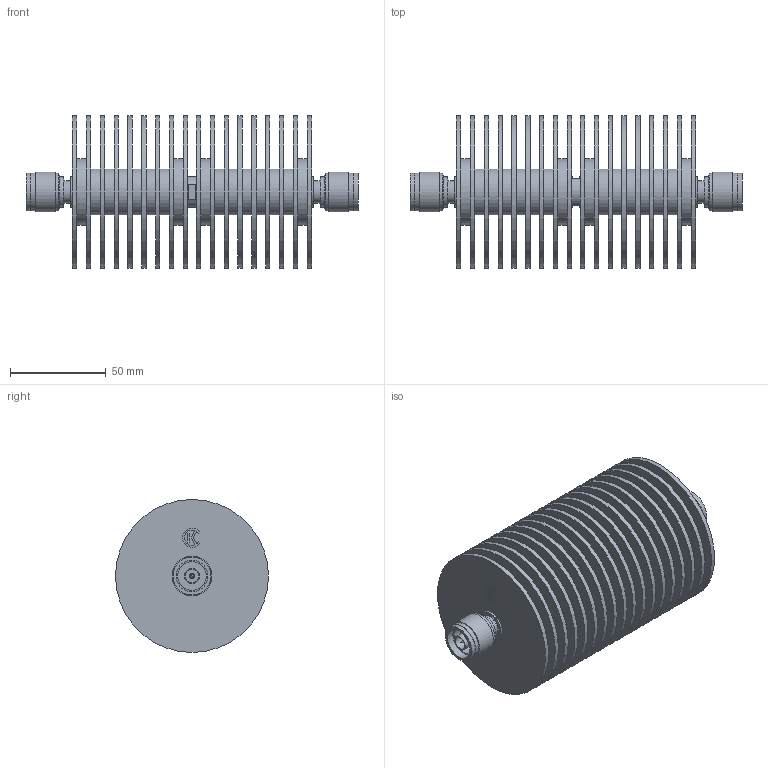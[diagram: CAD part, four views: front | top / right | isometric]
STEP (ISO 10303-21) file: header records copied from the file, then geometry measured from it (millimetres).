
FILE_DESCRIPTION(('STEP AP203'), '1');
FILE_NAME('ÏÐ1-25-100-NMM', '', ('UNSPECIFIED'), ('UNSPECIFIED'), 'C3D Converter', 'C3D Toolkit', '');
FILE_SCHEMA(('CONFIG_CONTROL_DESIGN'));
Length unit declared in the file: millimetre
Products named in the file (5): -01
Assembly tree (5 placements, depth 2):
  (unnamed)
    (unnamed)
    (unnamed)  x2
    (unnamed)
    -01
Bounding box: 173.7 x 80 x 80 mm (x, y, z)
Volume: 263561.3 mm3; surface area: 189788.4 mm2
Topology: 5 solids, 5 shells, 233 faces, 462 edges, 312 vertices
Faces by surface type: plane 140, cylinder 89, torus 2, cone 2
Full cylindrical faces by diameter (mm): 1.65 x2, 3.04 x2, 7 x2, 8.04 x2, 9 x2, 11.6 x2, 12.7 x2, 14.94 x2, 15.75 x2, 16 x7, 16.5 x2, 17.46 x2, 17.8 x2, 19.8 x6, 20.85 x2, 24 x12, 35 x4, 80 x18
Entity records: 5270 total; most frequent: DIRECTION 714, CARTESIAN_POINT 608, ORIENTED_EDGE 484, AXIS2_PLACEMENT_3D 310, EDGE_LOOP 266, EDGE_CURVE 242, VERTEX_POINT 204, FACE_BOUND 169
